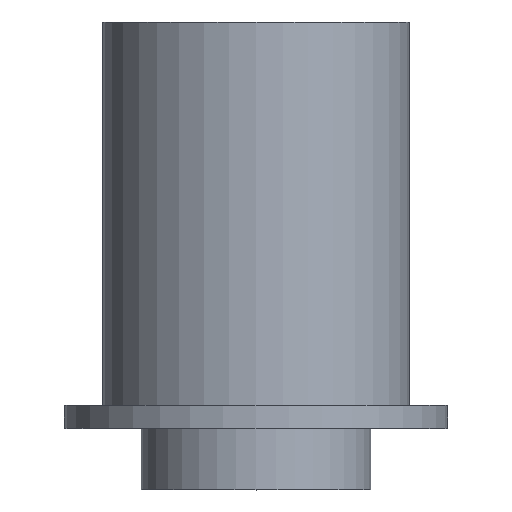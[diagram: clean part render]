
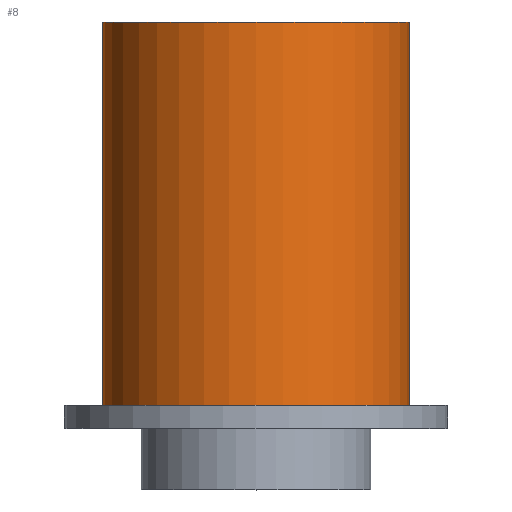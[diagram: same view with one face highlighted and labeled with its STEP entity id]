
A CAD part, top view. The second image highlights one B-rep face of the part: STEP entity #8.
In plain terms, the highlighted cylindrical face has radius 4 mm (diameter 8 mm), a partial arc.
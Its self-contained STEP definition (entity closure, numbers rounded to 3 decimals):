
#8 = ADVANCED_FACE ( 'NONE', ( #250 ), #206, .T. ) ;
#24 = AXIS2_PLACEMENT_3D ( 'NONE', #115, #112, #111 ) ;
#26 = AXIS2_PLACEMENT_3D ( 'NONE', #162, #161, #160 ) ;
#27 = EDGE_CURVE ( 'NONE', #145, #153, #223, .T. ) ;
#28 = EDGE_CURVE ( 'NONE', #145, #169, #219, .T. ) ;
#43 = EDGE_CURVE ( 'NONE', #153, #171, #289, .T. ) ;
#45 = EDGE_CURVE ( 'NONE', #169, #171, #237, .T. ) ;
#49 = AXIS2_PLACEMENT_3D ( 'NONE', #179, #180, #182 ) ;
#90 = CARTESIAN_POINT ( 'NONE',  ( -4., 1.2, 0. ) ) ;
#93 = CARTESIAN_POINT ( 'NONE',  ( 4., 1.2, 0. ) ) ;
#95 = CARTESIAN_POINT ( 'NONE',  ( -4., 11.2, 0. ) ) ;
#96 = CARTESIAN_POINT ( 'NONE',  ( 4., 11.2, 0. ) ) ;
#111 = DIRECTION ( 'NONE',  ( 1., 0., 0. ) ) ;
#112 = DIRECTION ( 'NONE',  ( 0., -1., 0. ) ) ;
#114 = DIRECTION ( 'NONE',  ( 0., -1., 0. ) ) ;
#115 = CARTESIAN_POINT ( 'NONE',  ( 0., 1.2, 0. ) ) ;
#119 = CARTESIAN_POINT ( 'NONE',  ( -4., -1., 0. ) ) ;
#145 = VERTEX_POINT ( 'NONE', #96 ) ;
#153 = VERTEX_POINT ( 'NONE', #95 ) ;
#158 = DIRECTION ( 'NONE',  ( 0., -1., 0. ) ) ;
#160 = DIRECTION ( 'NONE',  ( 1., 0., 0. ) ) ;
#161 = DIRECTION ( 'NONE',  ( 0., -1., 0. ) ) ;
#162 = CARTESIAN_POINT ( 'NONE',  ( 0., 11.2, 0. ) ) ;
#165 = CARTESIAN_POINT ( 'NONE',  ( 4., -1., 0. ) ) ;
#169 = VERTEX_POINT ( 'NONE', #93 ) ;
#171 = VERTEX_POINT ( 'NONE', #90 ) ;
#179 = CARTESIAN_POINT ( 'NONE',  ( 0., -1., 0. ) ) ;
#180 = DIRECTION ( 'NONE',  ( 0., -1., 0. ) ) ;
#182 = DIRECTION ( 'NONE',  ( 1., 0., 0. ) ) ;
#200 = EDGE_LOOP ( 'NONE', ( #275, #208, #256, #257 ) ) ;
#206 = CYLINDRICAL_SURFACE ( 'NONE', #49, 4. ) ;
#208 = ORIENTED_EDGE ( 'NONE', *, *, #43, .T. ) ;
#219 = LINE ( 'NONE', #165, #226 ) ;
#223 = CIRCLE ( 'NONE', #26, 4. ) ;
#226 = VECTOR ( 'NONE', #158, 1000. ) ;
#237 = CIRCLE ( 'NONE', #24, 4. ) ;
#243 = VECTOR ( 'NONE', #114, 1000. ) ;
#250 = FACE_OUTER_BOUND ( 'NONE', #200, .T. ) ;
#256 = ORIENTED_EDGE ( 'NONE', *, *, #45, .F. ) ;
#257 = ORIENTED_EDGE ( 'NONE', *, *, #28, .F. ) ;
#275 = ORIENTED_EDGE ( 'NONE', *, *, #27, .T. ) ;
#289 = LINE ( 'NONE', #119, #243 ) ;
